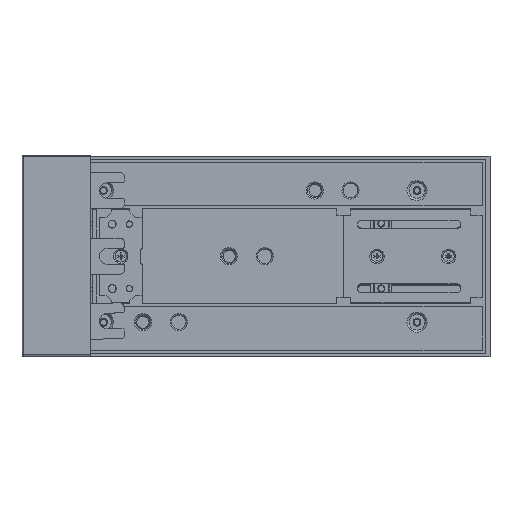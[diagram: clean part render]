
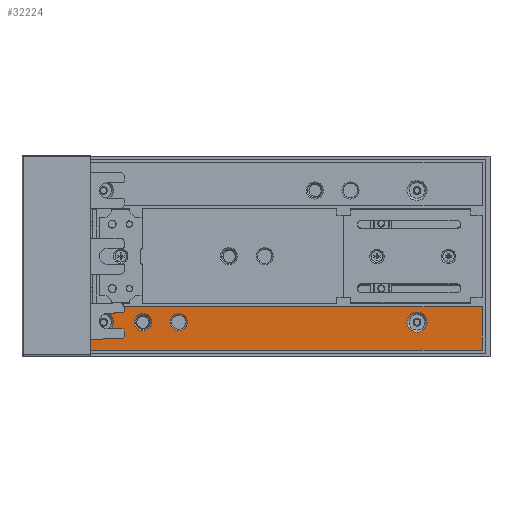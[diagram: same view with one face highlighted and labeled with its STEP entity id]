
A CAD part, top view. The second image highlights one B-rep face of the part: STEP entity #32224.
In plain terms, the highlighted planar face has unit normal (0, 0, 1) by its records, which use the part's own axes.
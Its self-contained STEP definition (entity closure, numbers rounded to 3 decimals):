
#161 = DIRECTION ( 'NONE',  ( 0., -1., 0. ) ) ;
#2574 = LINE ( 'NONE', #77965, #19791 ) ;
#3955 = ORIENTED_EDGE ( 'NONE', *, *, #58562, .T. ) ;
#4092 = CARTESIAN_POINT ( 'NONE',  ( -63.609, 159.515, 341.751 ) ) ;
#5219 = FACE_BOUND ( 'NONE', #110347, .T. ) ;
#9784 = AXIS2_PLACEMENT_3D ( 'NONE', #97064, #53695, #86919 ) ;
#17197 = FACE_BOUND ( 'NONE', #76285, .T. ) ;
#19791 = VECTOR ( 'NONE', #161, 1000. ) ;
#19975 = CARTESIAN_POINT ( 'NONE',  ( 128.891, 159.515, 341.751 ) ) ;
#20490 = EDGE_CURVE ( 'NONE', #113692, #103145, #2574, .T. ) ;
#21965 = CARTESIAN_POINT ( 'NONE',  ( -107.109, 170.265, 341.751 ) ) ;
#23093 = CIRCLE ( 'NONE', #43591, 7. ) ;
#26502 = DIRECTION ( 'NONE',  ( 1., 0., 0. ) ) ;
#27290 = VECTOR ( 'NONE', #122177, 1000. ) ;
#32224 = ADVANCED_FACE ( 'NONE', ( #5219, #137551, #41297, #17197, #129050 ), #78344, .T. ) ;
#34425 = CIRCLE ( 'NONE', #84169, 6. ) ;
#36220 = ORIENTED_EDGE ( 'NONE', *, *, #89678, .T. ) ;
#39703 = VERTEX_POINT ( 'NONE', #56902 ) ;
#40895 = ORIENTED_EDGE ( 'NONE', *, *, #124574, .T. ) ;
#41297 = FACE_BOUND ( 'NONE', #44229, .T. ) ;
#41668 = LINE ( 'NONE', #71928, #120885 ) ;
#43256 = CARTESIAN_POINT ( 'NONE',  ( -69.609, 159.515, 341.751 ) ) ;
#43591 = AXIS2_PLACEMENT_3D ( 'NONE', #114549, #92336, #26502 ) ;
#44229 = EDGE_LOOP ( 'NONE', ( #50141 ) ) ;
#47061 = VERTEX_POINT ( 'NONE', #75368 ) ;
#48463 = VERTEX_POINT ( 'NONE', #57329 ) ;
#48734 = VERTEX_POINT ( 'NONE', #19975 ) ;
#50141 = ORIENTED_EDGE ( 'NONE', *, *, #121157, .T. ) ;
#53583 = EDGE_CURVE ( 'NONE', #103145, #104587, #114452, .T. ) ;
#53695 = DIRECTION ( 'NONE',  ( 0., 0., -1. ) ) ;
#54258 = DIRECTION ( 'NONE',  ( 1., 0., 0. ) ) ;
#54901 = CARTESIAN_POINT ( 'NONE',  ( 167.391, 140.015, 341.751 ) ) ;
#55558 = ORIENTED_EDGE ( 'NONE', *, *, #20490, .T. ) ;
#55676 = DIRECTION ( 'NONE',  ( 0., 0., -1. ) ) ;
#56902 = CARTESIAN_POINT ( 'NONE',  ( 167.391, 170.265, 341.751 ) ) ;
#57329 = CARTESIAN_POINT ( 'NONE',  ( -90.109, 159.515, 341.751 ) ) ;
#58562 = EDGE_CURVE ( 'NONE', #141716, #141716, #69093, .T. ) ;
#69093 = CIRCLE ( 'NONE', #85989, 6. ) ;
#71314 = EDGE_CURVE ( 'NONE', #47061, #47061, #34425, .T. ) ;
#71928 = CARTESIAN_POINT ( 'NONE',  ( 167.391, 205.515, 341.751 ) ) ;
#75303 = ORIENTED_EDGE ( 'NONE', *, *, #71314, .T. ) ;
#75368 = CARTESIAN_POINT ( 'NONE',  ( -38.609, 159.515, 341.751 ) ) ;
#76285 = EDGE_LOOP ( 'NONE', ( #36220 ) ) ;
#77965 = CARTESIAN_POINT ( 'NONE',  ( -107.109, 205.515, 341.751 ) ) ;
#78344 = PLANE ( 'NONE',  #92805 ) ;
#79298 = CARTESIAN_POINT ( 'NONE',  ( 11.891, 205.515, 341.751 ) ) ;
#81375 = ORIENTED_EDGE ( 'NONE', *, *, #99474, .T. ) ;
#84169 = AXIS2_PLACEMENT_3D ( 'NONE', #92127, #103718, #103249 ) ;
#85989 = AXIS2_PLACEMENT_3D ( 'NONE', #43256, #55676, #54258 ) ;
#86919 = DIRECTION ( 'NONE',  ( 1., 0., 0. ) ) ;
#89678 = EDGE_CURVE ( 'NONE', #48734, #48734, #23093, .T. ) ;
#90388 = CARTESIAN_POINT ( 'NONE',  ( 11.891, 170.265, 341.751 ) ) ;
#92127 = CARTESIAN_POINT ( 'NONE',  ( -44.609, 159.515, 341.751 ) ) ;
#92336 = DIRECTION ( 'NONE',  ( 0., 0., -1. ) ) ;
#92805 = AXIS2_PLACEMENT_3D ( 'NONE', #79298, #121703, #136520 ) ;
#97064 = CARTESIAN_POINT ( 'NONE',  ( -97.109, 159.515, 341.751 ) ) ;
#98426 = EDGE_LOOP ( 'NONE', ( #81375, #40895, #55558, #107981 ) ) ;
#99474 = EDGE_CURVE ( 'NONE', #104587, #39703, #41668, .T. ) ;
#103145 = VERTEX_POINT ( 'NONE', #115138 ) ;
#103249 = DIRECTION ( 'NONE',  ( 1., 0., 0. ) ) ;
#103718 = DIRECTION ( 'NONE',  ( 0., 0., -1. ) ) ;
#104580 = DIRECTION ( 'NONE',  ( 1., 0., 0. ) ) ;
#104587 = VERTEX_POINT ( 'NONE', #54901 ) ;
#107981 = ORIENTED_EDGE ( 'NONE', *, *, #53583, .T. ) ;
#108156 = LINE ( 'NONE', #90388, #27290 ) ;
#110347 = EDGE_LOOP ( 'NONE', ( #75303 ) ) ;
#113692 = VERTEX_POINT ( 'NONE', #21965 ) ;
#114452 = LINE ( 'NONE', #116165, #136644 ) ;
#114549 = CARTESIAN_POINT ( 'NONE',  ( 121.891, 159.515, 341.751 ) ) ;
#115138 = CARTESIAN_POINT ( 'NONE',  ( -107.109, 140.015, 341.751 ) ) ;
#116165 = CARTESIAN_POINT ( 'NONE',  ( 11.891, 140.015, 341.751 ) ) ;
#120160 = CIRCLE ( 'NONE', #9784, 7. ) ;
#120885 = VECTOR ( 'NONE', #126333, 1000. ) ;
#121157 = EDGE_CURVE ( 'NONE', #48463, #48463, #120160, .T. ) ;
#121703 = DIRECTION ( 'NONE',  ( 0., 0., 1. ) ) ;
#122177 = DIRECTION ( 'NONE',  ( -1., 0., 0. ) ) ;
#124574 = EDGE_CURVE ( 'NONE', #39703, #113692, #108156, .T. ) ;
#126333 = DIRECTION ( 'NONE',  ( 0., 1., 0. ) ) ;
#129050 = FACE_OUTER_BOUND ( 'NONE', #98426, .T. ) ;
#136520 = DIRECTION ( 'NONE',  ( 1., 0., 0. ) ) ;
#136644 = VECTOR ( 'NONE', #104580, 1000. ) ;
#137551 = FACE_BOUND ( 'NONE', #141189, .T. ) ;
#141189 = EDGE_LOOP ( 'NONE', ( #3955 ) ) ;
#141716 = VERTEX_POINT ( 'NONE', #4092 ) ;
